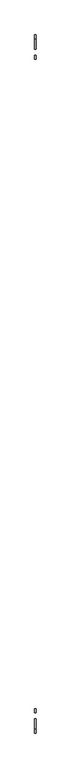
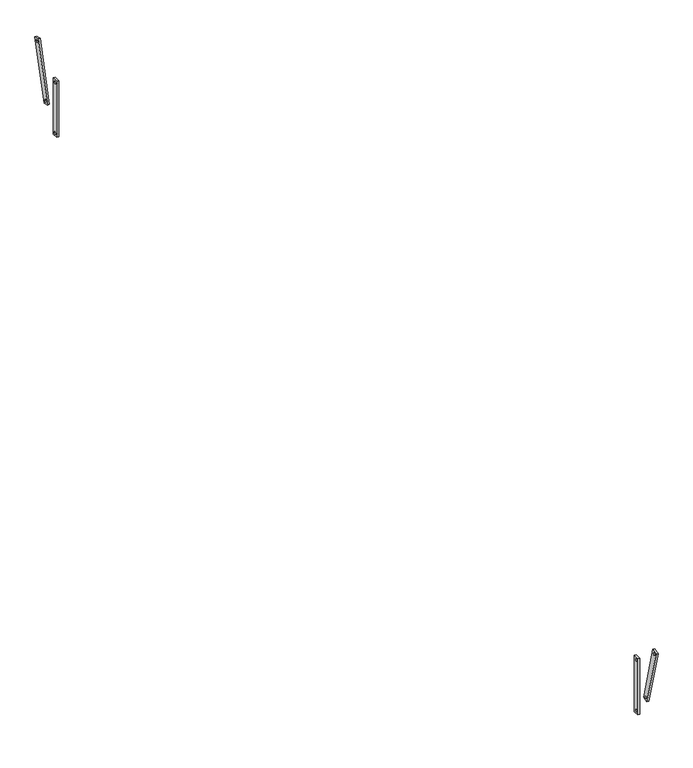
"""IFC4 building model written with IfcOpenShell, lengths in millimetres: proxy geometry, Modelos genéricos 284 : Modelos genéricos 278."""

from ifc_helpers import new_model, si_unit, point, frame, frame_2d, origin, place, context, project, spatial, polyline, circle_curve, trimmed, segment, composite_curve, outline, extrude, source, transform, mapped, element, save


def generic_models_3e0b4051(model_context):
    return source(origin(), model_context, "Body", "SweptSolid", [
        extrude(outline(polyline([(5318.6238165, 2800.0), (5318.6238165, 3200.0), (5358.6238165, 3200.0), (5358.6238165, 2800.0), (5318.6238165, 2800.0)]), holes=[composite_curve([segment(trimmed(circle_curve(frame_2d((5338.6238165, 3180.0)), 7.5), [point((5346.1238165, 3180.0))], [point((5331.1238165, 3180.0))], True, "CARTESIAN"), True, "CONTINUOUS"), segment(trimmed(circle_curve(frame_2d((5338.6238165, 3180.0)), 7.5), [point((5331.1238165, 3180.0))], [point((5346.1238165, 3180.0))], True, "CARTESIAN"), True, "CONTINUOUS")], self_intersect=False), composite_curve([segment(trimmed(circle_curve(frame_2d((5338.6238165, 2820.0)), 7.5), [point((5346.1238165, 2820.0))], [point((5331.1238165, 2820.0))], True, "CARTESIAN"), True, "CONTINUOUS"), segment(trimmed(circle_curve(frame_2d((5338.6238165, 2820.0)), 7.5), [point((5331.1238165, 2820.0))], [point((5346.1238165, 2820.0))], True, "CARTESIAN"), True, "CONTINUOUS")], self_intersect=False)]), frame((-1666.5527533, 0.0, 0.0), z_axis=(1.0, 0.0, 0.0), x_axis=(0.0, 1.0, 0.0)), (0.0, 0.0, 1.0), 12.7),
        extrude(outline(polyline([(5424.7907615, 2966.5419368), (5533.4947604, 3372.2307838), (5572.1317934, 3361.878022), (5463.4277945, 2956.1891749), (5424.7907615, 2966.5419368)]), holes=[composite_curve([segment(trimmed(circle_curve(frame_2d((5547.636896, 3347.7358864)), 7.5), [point((5554.8813397, 3345.7947435))], [point((5540.3924523, 3349.6770292))], True, "CARTESIAN"), True, "CONTINUOUS"), segment(trimmed(circle_curve(frame_2d((5547.636896, 3347.7358864)), 7.5), [point((5540.3924523, 3349.6770292))], [point((5554.8813397, 3345.7947435))], True, "CARTESIAN"), True, "CONTINUOUS")], self_intersect=False), composite_curve([segment(trimmed(circle_curve(frame_2d((5449.2856589, 2980.6840724)), 7.5), [point((5456.5301026, 2978.7429295))], [point((5442.0412152, 2982.6252152))], True, "CARTESIAN"), True, "CONTINUOUS"), segment(trimmed(circle_curve(frame_2d((5449.2856589, 2980.6840724)), 7.5), [point((5442.0412152, 2982.6252152))], [point((5456.5301026, 2978.7429295))], True, "CARTESIAN"), True, "CONTINUOUS")], self_intersect=False)]), frame((-1666.5527533, 0.0, 0.0), z_axis=(1.0, 0.0, 0.0), x_axis=(0.0, 1.0, 0.0)), (0.0, 0.0, 1.0), 12.7),
        extrude(outline(polyline([(-1421.3761835, 2800.0), (-1461.3761835, 2800.0), (-1461.3761835, 3200.0), (-1421.3761835, 3200.0), (-1421.3761835, 2800.0)]), holes=[composite_curve([segment(trimmed(circle_curve(frame_2d((-1441.3761835, 3180.0)), 7.5), [point((-1448.8761835, 3180.0))], [point((-1433.8761835, 3180.0))], True, "CARTESIAN"), True, "CONTINUOUS"), segment(trimmed(circle_curve(frame_2d((-1441.3761835, 3180.0)), 7.5), [point((-1433.8761835, 3180.0))], [point((-1448.8761835, 3180.0))], True, "CARTESIAN"), True, "CONTINUOUS")], self_intersect=False), composite_curve([segment(trimmed(circle_curve(frame_2d((-1441.3761835, 2820.0)), 7.5), [point((-1448.8761835, 2820.0))], [point((-1433.8761835, 2820.0))], True, "CARTESIAN"), True, "CONTINUOUS"), segment(trimmed(circle_curve(frame_2d((-1441.3761835, 2820.0)), 7.5), [point((-1433.8761835, 2820.0))], [point((-1448.8761835, 2820.0))], True, "CARTESIAN"), True, "CONTINUOUS")], self_intersect=False)]), frame((-1666.5527533, 0.0, 0.0), z_axis=(1.0, 0.0, 0.0), x_axis=(0.0, 1.0, 0.0)), (0.0, 0.0, 1.0), 12.7),
        extrude(outline(polyline([(-1527.5431285, 2966.5419368), (-1566.1801615, 2956.1891749), (-1674.8841605, 3361.878022), (-1636.2471274, 3372.2307838), (-1527.5431285, 2966.5419368)]), holes=[composite_curve([segment(trimmed(circle_curve(frame_2d((-1650.389263, 3347.7358864)), 7.5), [point((-1657.6337067, 3345.7947435))], [point((-1643.1448193, 3349.6770292))], True, "CARTESIAN"), True, "CONTINUOUS"), segment(trimmed(circle_curve(frame_2d((-1650.389263, 3347.7358864)), 7.5), [point((-1643.1448193, 3349.6770292))], [point((-1657.6337067, 3345.7947435))], True, "CARTESIAN"), True, "CONTINUOUS")], self_intersect=False), composite_curve([segment(trimmed(circle_curve(frame_2d((-1552.0380259, 2980.6840724)), 7.5), [point((-1559.2824696, 2978.7429295))], [point((-1544.7935822, 2982.6252152))], True, "CARTESIAN"), True, "CONTINUOUS"), segment(trimmed(circle_curve(frame_2d((-1552.0380259, 2980.6840724)), 7.5), [point((-1544.7935822, 2982.6252152))], [point((-1559.2824696, 2978.7429295))], True, "CARTESIAN"), True, "CONTINUOUS")], self_intersect=False)]), frame((-1666.5527533, 0.0, 0.0), z_axis=(1.0, 0.0, 0.0), x_axis=(0.0, 1.0, 0.0)), (0.0, 0.0, 1.0), 12.7),
    ])


if __name__ == "__main__":
    model = new_model("IFC4")
    model_context = context("Model", 3, world=origin())
    ifc_project = project(units=[si_unit("LENGTHUNIT", "METRE", prefix="MILLI")], contexts=[model_context])
    site = spatial("IfcSite", under=ifc_project)
    building = spatial("IfcBuilding", under=site)
    placement = place(None, origin())
    generic_models_shape = generic_models_3e0b4051(model_context)
    element("IfcBuildingElementProxy", 1, Name="Modelos genéricos 284 : Modelos genéricos 278", ObjectType="Modelos genéricos 284 : Modelos genéricos 278", at=placement, inside=building, context=model_context, shape_type="MappedRepresentation", body=[
        mapped(generic_models_shape, transform((0.0, 0.0, 0.0), x_axis=(1.0, 0.0, 0.0), y_axis=(0.0, 1.0, 0.0), z_axis=(0.0, 0.0, 1.0))),
    ])
    save(model, "model.ifc")
